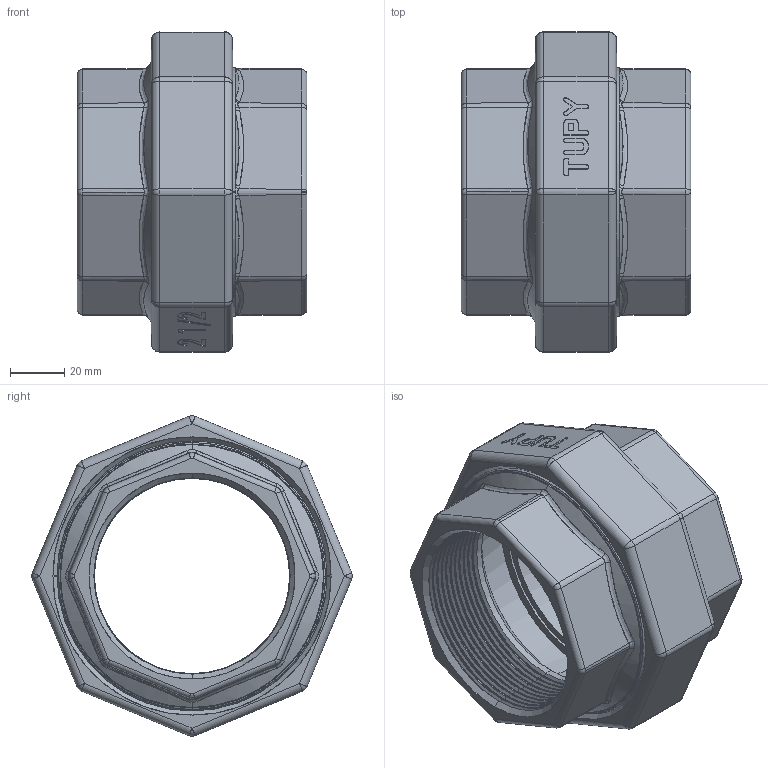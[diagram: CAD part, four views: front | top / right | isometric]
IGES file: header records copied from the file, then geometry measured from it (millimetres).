
Start section: SolidWorks IGES file using analytic representation for surfaces
Global section: file name: C:\Users\Joel Rosa\Desktop\Tubulação\12-63-X\12-63-011.IGS; native system: SolidWorks 2011; preprocessor: SolidWorks 2011; author: Joel Rosa; date: 130721.142229; units: millimetre
Bounding box: 85 x 118.56 x 118.57 mm (x, y, z)
Surface area: 100548.8 mm2 (no closed solid volume)
Topology: 0 solids, 0 shells, 680 faces, 5317 edges, 5311 vertices
Faces by surface type: bspline 418, revolution 262
